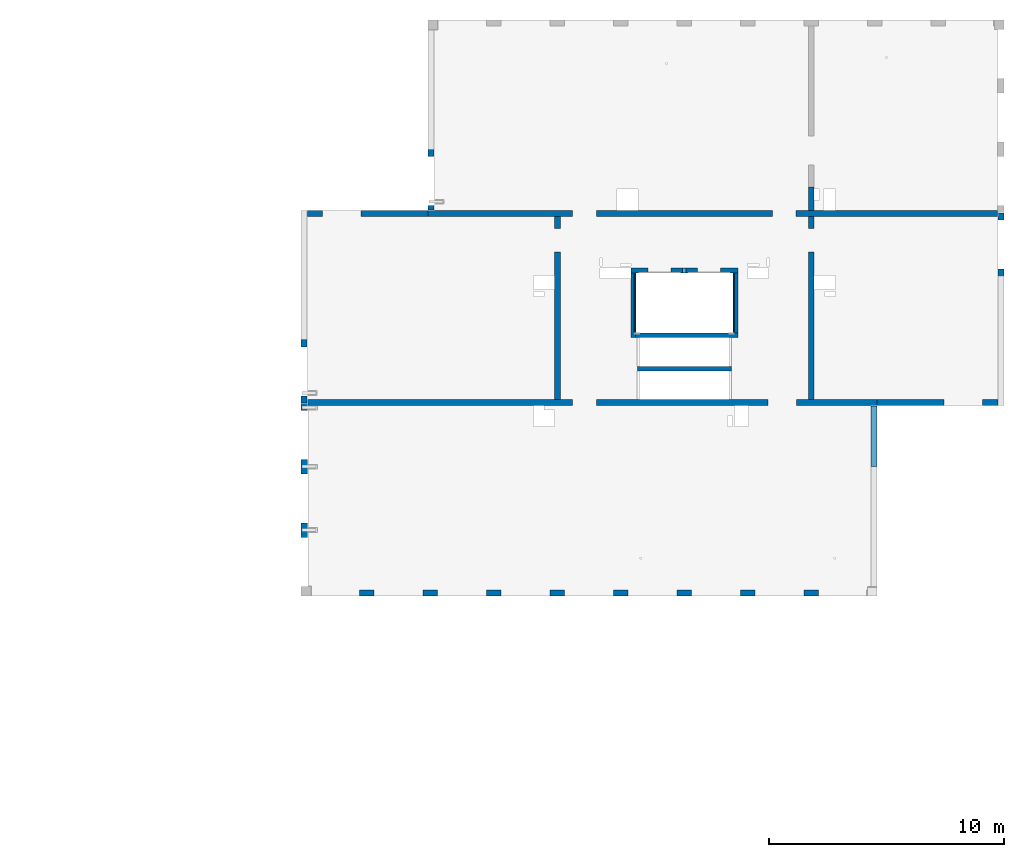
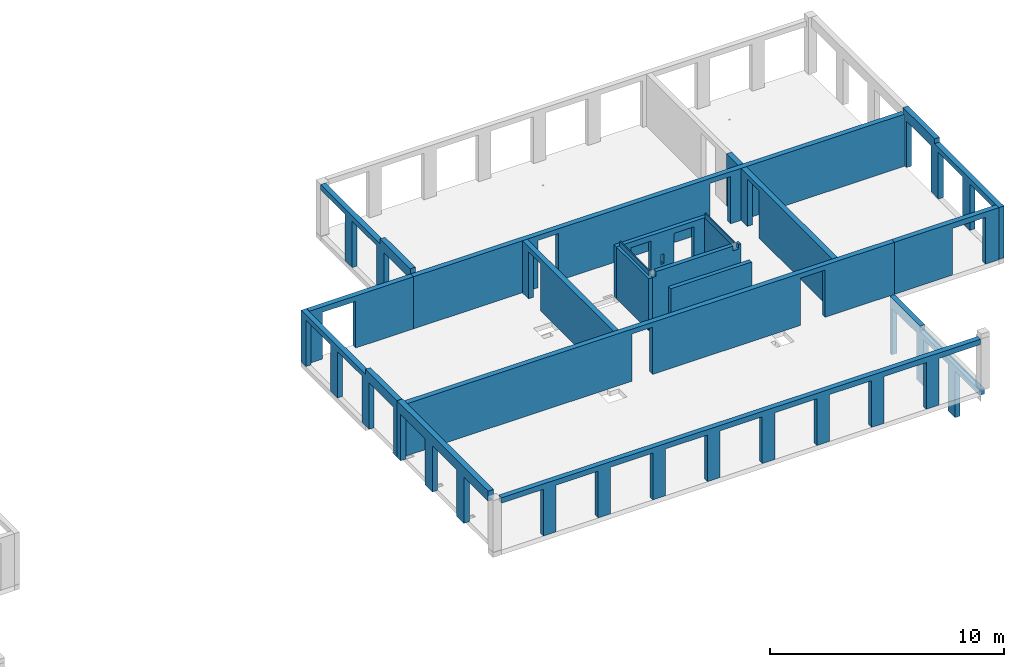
# One storey, part 6 of 12: 20 walls, 42 openings.
"""IFC2X3 building model written with IfcOpenShell, lengths in millimetres."""

import ifcopenshell
import ifcopenshell.guid

model = None  # the IFC model being written
_history = None  # IfcOwnerHistory: only IFC2X3 demands one
_inside = {}  # id of a spatial element -> (the spatial element, [elements in it])
_under = {}  # id of a project, library or spatial element -> (it, [spatial elements below it])
_declared = {}  # id of a project -> (the project, [libraries it declares])
_typed = {}  # id of a type object -> (the type object, [elements of that type])
_made_of = {}  # id of a material, layer set ... -> (it, [elements and type objects made of it])


def new_model(schema):
    """Start an empty IFC model of exactly this schema.

    Asked for "IFC4X3", IfcOpenShell would pick the latest addendum, in which some entities
    have other attributes; the version numbers below select the first issue.
    IFC2X3 requires an IfcOwnerHistory on every rooted entity: one is made here for all.
    """
    global model, _history
    if schema == "IFC4X3":
        model = ifcopenshell.file(schema_version=(4, 3, 0, 0))
    else:
        model = ifcopenshell.file(schema=schema)
    _inside.clear()
    _under.clear()
    _declared.clear()
    _typed.clear()
    _made_of.clear()
    _history = None
    if model.schema == "IFC2X3":
        org = make("IfcOrganization", Name="unknown")
        user = make(
            "IfcPersonAndOrganization",
            ThePerson=make("IfcPerson", FamilyName="unknown"),
            TheOrganization=org,
        )
        app = make(
            "IfcApplication",
            ApplicationDeveloper=org,
            Version="unknown",
            ApplicationFullName="unknown",
            ApplicationIdentifier="unknown",
        )
        _history = make(
            "IfcOwnerHistory",
            OwningUser=user,
            OwningApplication=app,
            ChangeAction="ADDED",
            CreationDate=0,
        )
    return model


def make(cls, **values):
    """One entity of the class cls with the attributes given. An attribute that is None is left unset."""
    return model.create_entity(
        cls, **{name: value for name, value in values.items() if value is not None}
    )


def entity(cls, *values):
    """Any entity or typed value of the class cls, its attributes in the order of the schema. None: left unset."""
    e = model.create_entity(cls)
    for i, value in enumerate(values):
        if value is not None:
            e[i] = value
    return e


def rooted(cls, **values):
    """An entity with a GlobalId (a new one), such as an element, a storey or a relation."""
    return make(cls, GlobalId=ifcopenshell.guid.new(), OwnerHistory=_history, **values)


def si_unit(unit_type, name, prefix=None):
    """IfcSIUnit, for example si_unit("LENGTHUNIT", "METRE", prefix="MILLI")."""
    return make("IfcSIUnit", UnitType=unit_type, Prefix=prefix, Name=name)


def converted_unit(unit_type, name, factor, base, dimensions=None, offset=None):
    """IfcConversionBasedUnit, such as the inch: factor (a typed value) times the base unit."""
    return make(
        "IfcConversionBasedUnit"
        if offset is None
        else "IfcConversionBasedUnitWithOffset",
        ConversionOffset=offset,
        Dimensions=None
        if dimensions is None
        else entity("IfcDimensionalExponents", *dimensions),
        UnitType=unit_type,
        Name=name,
        ConversionFactor=make(
            "IfcMeasureWithUnit", ValueComponent=factor, UnitComponent=base
        ),
    )


def derived_unit(unit_type, elements):
    """IfcDerivedUnit: a product of units, each with its exponent."""
    return make(
        "IfcDerivedUnit",
        Elements=[
            make("IfcDerivedUnitElement", Unit=unit, Exponent=power)
            for unit, power in elements
        ],
        UnitType=unit_type,
    )


def assignment(units):
    """IfcUnitAssignment: the units of a project."""
    return None if units is None else make("IfcUnitAssignment", Units=units)


def point(xyz):
    """IfcCartesianPoint."""
    return None if xyz is None else make("IfcCartesianPoint", Coordinates=xyz)


def direction(xyz):
    """IfcDirection."""
    return None if xyz is None else make("IfcDirection", DirectionRatios=xyz)


def frame(location, z_axis=None, x_axis=None):
    """IfcAxis2Placement3D, a coordinate frame: its origin and axes. An axis left out is left unset."""
    return make(
        "IfcAxis2Placement3D",
        Location=point(location),
        Axis=direction(z_axis),
        RefDirection=direction(x_axis),
    )


def frame_2d(location, x_axis=None):
    """IfcAxis2Placement2D, a coordinate frame in the plane: its origin and x axis."""
    return make(
        "IfcAxis2Placement2D", Location=point(location), RefDirection=direction(x_axis)
    )


def origin():
    """The frame at (0, 0, 0) with its axes left unset."""
    return frame((0.0, 0.0, 0.0))


def origin_2d_with_axis():
    """The frame at (0, 0) in the plane with the x axis (1, 0) written out."""
    return frame_2d((0.0, 0.0), x_axis=(1.0, 0.0))


def place(relative_to, where):
    """IfcLocalPlacement: puts the frame where relative to a parent placement (None: the world)."""
    return make(
        "IfcLocalPlacement", PlacementRelTo=relative_to, RelativePlacement=where
    )


def context(
    kind, dimensions, precision=None, world=None, true_north=None, identifier=None
):
    """IfcGeometricRepresentationContext, for example the 3D "Model" context."""
    return make(
        "IfcGeometricRepresentationContext",
        ContextIdentifier=identifier,
        ContextType=kind,
        CoordinateSpaceDimension=dimensions,
        Precision=precision,
        WorldCoordinateSystem=world,
        TrueNorth=true_north,
    )


def subcontext(parent, identifier, kind, view, scale=None):
    """IfcGeometricRepresentationSubContext, for example "Body" below "Model"."""
    return make(
        "IfcGeometricRepresentationSubContext",
        ContextIdentifier=identifier,
        ContextType=kind,
        ParentContext=parent,
        TargetScale=scale,
        TargetView=view,
    )


def project(units=None, contexts=None):
    """IfcProject with its units and contexts."""
    return rooted(
        "IfcProject",
        Name="project",
        RepresentationContexts=contexts,
        UnitsInContext=assignment(units),
    )


def spatial(cls, under=None, at=None, **own):
    """A site, building, storey or space (cls), placed at a placement, below another one or the project."""
    s = rooted(cls, ObjectPlacement=at, **own)
    if under is not None:
        _under.setdefault(under.id(), (under, []))[1].append(s)
    return s


def profile(cls, at=None, kind="AREA", **sizes):
    """A parametric profile (cls). Its sizes go by their IFC names, for example OverallWidth=200.0."""
    return make(cls, ProfileType=kind, Position=at, **sizes)


def rectangle(**sizes):
    """IfcRectangleProfileDef."""
    return profile("IfcRectangleProfileDef", **sizes)


def extrude(swept, where, along, depth):
    """IfcExtrudedAreaSolid: the profile swept, set in the frame where, extruded along a direction by depth."""
    return make(
        "IfcExtrudedAreaSolid",
        SweptArea=swept,
        Position=where,
        ExtrudedDirection=direction(along),
        Depth=depth,
    )


def shape(context_of_items, identifier, shape_type, items):
    """IfcShapeRepresentation: the items that make up one representation, for example the "Body"."""
    return make(
        "IfcShapeRepresentation",
        ContextOfItems=context_of_items,
        RepresentationIdentifier=identifier,
        RepresentationType=shape_type,
        Items=items,
    )


def material(Name=None, Category=None):
    """IfcMaterial."""
    return make("IfcMaterial", Name=Name, Category=Category)


def layer(
    of_material, thickness, ventilated=None, Name=None, Category=None, Priority=None
):
    """IfcMaterialLayer: one layer of a wall or slab, of a material (None: an air gap)."""
    return make(
        "IfcMaterialLayer",
        Material=of_material,
        LayerThickness=thickness,
        IsVentilated=ventilated,
        Name=Name,
        Category=Category,
        Priority=Priority,
    )


def layer_set(layers, Name=None):
    """IfcMaterialLayerSet."""
    return make("IfcMaterialLayerSet", MaterialLayers=layers, LayerSetName=Name)


def layer_usage(for_layer_set, set_direction, sense, offset, extent=None):
    """IfcMaterialLayerSetUsage: how a layer set lies in its element."""
    return make(
        "IfcMaterialLayerSetUsage",
        ForLayerSet=for_layer_set,
        LayerSetDirection=set_direction,
        DirectionSense=sense,
        OffsetFromReferenceLine=offset,
        ReferenceExtent=extent,
    )


def made_of(thing, what):
    """Note that an element or type object is made of a material, layer set ...; save() writes the relation."""
    if what is not None:
        _made_of.setdefault(what.id(), (what, []))[1].append(thing)
    return thing


def type_object(cls, material=None, **own):
    """A type object (cls), such as IfcWallType, which elements share."""
    return made_of(rooted(cls, **own), material)


def element(
    cls,
    number,
    at=None,
    inside=None,
    cuts=None,
    type_object=None,
    material=None,
    context=None,
    identifier="Body",
    shape_type=None,
    held_by="IfcProductDefinitionShape",
    body=None,
    shapes=None,
    **own,
):
    """One element of the class cls, such as IfcWall. Its Tag is "e" and its number.

    at: its placement. inside: the storey or other place that contains it. cuts: it is an
    opening in that element (IfcRelVoidsElement). A single representation is given by context,
    identifier, shape_type and body (its items); several are given by shapes. held_by: the class
    of the entity that holds the representations. save() writes the other relations.
    """
    e = rooted(cls, Tag="e%d" % number, ObjectPlacement=at, **own)
    if body is not None:
        shapes = [shape(context, identifier, shape_type, body)]
    if shapes is not None:
        e.Representation = make(held_by, Representations=shapes)
    if inside is not None:
        _inside.setdefault(inside.id(), (inside, []))[1].append(e)
    if cuts is not None:
        rooted(
            "IfcRelVoidsElement", RelatingBuildingElement=cuts, RelatedOpeningElement=e
        )
    if type_object is not None:
        _typed.setdefault(type_object.id(), (type_object, []))[1].append(e)
    return made_of(e, material)


def aggregate(whole, parts):
    """IfcRelAggregates: a whole, such as a stair, and the parts it consists of."""
    return rooted("IfcRelAggregates", RelatingObject=whole, RelatedObjects=parts)


def save(model, path):
    """Write the relations noted so far, then the file.

    IfcRelAggregates (storeys below a building ...), IfcRelContainedInSpatialStructure (elements
    in a storey), IfcRelDefinesByType, IfcRelAssociatesMaterial and IfcRelDeclares: one each for
    every whole, place, type object, material and project.
    """
    for whole, parts in _under.values():
        aggregate(whole, parts)
    for where, things in _inside.values():
        rooted(
            "IfcRelContainedInSpatialStructure",
            RelatedElements=things,
            RelatingStructure=where,
        )
    for kind, things in _typed.values():
        rooted("IfcRelDefinesByType", RelatedObjects=things, RelatingType=kind)
    for what, things in _made_of.values():
        rooted("IfcRelAssociatesMaterial", RelatedObjects=things, RelatingMaterial=what)
    for by, libraries in _declared.values():
        rooted("IfcRelDeclares", RelatingContext=by, RelatedDefinitions=libraries)
    model.write(path)


model = new_model("IFC2X3")

# Units and contexts
model_context = context("Model", 3, precision=0.01, world=origin(), true_north=direction((6.12303176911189e-17, 1.0)))
body_context = subcontext(model_context, "Body", "Model", "MODEL_VIEW")
ifc_project = project(units=[si_unit("LENGTHUNIT", "METRE", prefix="MILLI"), si_unit("AREAUNIT", "SQUARE_METRE"), si_unit("VOLUMEUNIT", "CUBIC_METRE"), converted_unit("PLANEANGLEUNIT", "DEGREE", entity("IfcRatioMeasure", 0.0174532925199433), si_unit("PLANEANGLEUNIT", "RADIAN"), dimensions=[0, 0, 0, 0, 0, 0, 0]), si_unit("MASSUNIT", "GRAM", prefix="KILO"), derived_unit("MASSDENSITYUNIT", [(si_unit("MASSUNIT", "GRAM", prefix="KILO"), 1), (si_unit("LENGTHUNIT", "METRE"), -3)]), si_unit("TIMEUNIT", "SECOND"), si_unit("FREQUENCYUNIT", "HERTZ"), si_unit("THERMODYNAMICTEMPERATUREUNIT", "DEGREE_CELSIUS"), derived_unit("THERMALTRANSMITTANCEUNIT", [(si_unit("MASSUNIT", "GRAM", prefix="KILO"), 1), (si_unit("THERMODYNAMICTEMPERATUREUNIT", "KELVIN"), -1), (si_unit("TIMEUNIT", "SECOND"), -3)]), derived_unit("VOLUMETRICFLOWRATEUNIT", [(si_unit("LENGTHUNIT", "METRE"), 3), (si_unit("TIMEUNIT", "SECOND"), -1)]), si_unit("ELECTRICCURRENTUNIT", "AMPERE"), si_unit("ELECTRICVOLTAGEUNIT", "VOLT"), si_unit("POWERUNIT", "WATT"), si_unit("FORCEUNIT", "NEWTON", prefix="KILO"), si_unit("ILLUMINANCEUNIT", "LUX"), si_unit("LUMINOUSFLUXUNIT", "LUMEN"), si_unit("LUMINOUSINTENSITYUNIT", "CANDELA"), derived_unit("USERDEFINED", [(si_unit("MASSUNIT", "GRAM", prefix="KILO"), -1), (si_unit("LENGTHUNIT", "METRE"), -2), (si_unit("TIMEUNIT", "SECOND"), 3), (si_unit("LUMINOUSFLUXUNIT", "LUMEN"), 1)]), derived_unit("LINEARVELOCITYUNIT", [(si_unit("LENGTHUNIT", "METRE"), 1), (si_unit("TIMEUNIT", "SECOND"), -1)]), si_unit("PRESSUREUNIT", "PASCAL"), derived_unit("USERDEFINED", [(si_unit("LENGTHUNIT", "METRE"), -2), (si_unit("MASSUNIT", "GRAM", prefix="KILO"), 1), (si_unit("TIMEUNIT", "SECOND"), -2)])], contexts=[model_context])

# Site, building, storey
site_placement = place(None, origin())
site = spatial("IfcSite", under=ifc_project, at=site_placement, Name="Default", CompositionType="ELEMENT")
building_placement = place(site_placement, origin())
building = spatial("IfcBuilding", under=site, at=building_placement, Name="niet gebruiken", CompositionType="ELEMENT")
storey_placement = place(building_placement, frame((0.0, 0.0, 21510.0)))
storey = spatial("IfcBuildingStorey", under=building, at=storey_placement, Name="07 zevende verdieping", CompositionType="ELEMENT", Elevation=21510.0)

# Wall, openings
ifc_material_1 = material(Name="NLRS_f2_beton ihwg")
ifc_layer_1 = layer(ifc_material_1, 250.0)
ifc_layer_set_1 = layer_set([ifc_layer_1], Name="Basic Wall:NLRS_22.21_WA_beton ihwg d=250_gen")
ifc_layer_usage_1 = layer_usage(ifc_layer_set_1, "AXIS2", "NEGATIVE", 125.0)
wall_type_1 = type_object("IfcWallType", Name="Basic Wall:NLRS_22.21_WA_beton ihwg d=250_gen", PredefinedType="STANDARD", material=ifc_layer_set_1)
wall_1_placement = place(storey_placement, frame((75770.0, 36981.0, -90.0)))
wall_1 = element("IfcWallStandardCase", 1, at=wall_1_placement, inside=storey, type_object=wall_type_1, material=ifc_layer_usage_1, Name="Basic Wall:NLRS_22.21_WA_beton ihwg d=250_gen", ObjectType="Basic Wall:NLRS_22.21_WA_beton ihwg d=250_gen", context=body_context, shape_type="SweptSolid", body=[
    extrude(rectangle(XDim=24230.0, YDim=250.000000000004, at=frame_2d((12115.0, 0.0), x_axis=(-1.0, 0.0))), origin(), (0.0, 0.0, 1.0), 2719.99999999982),
])
opening_1_placement = place(wall_1_placement, origin())
element("IfcOpeningElement", 2, at=opening_1_placement, cuts=wall_1, Name="Basic Wall:NLRS_22.21_WA_beton ihwg d=250_gen", ObjectType="Opening", context=body_context, shape_type="SweptSolid", body=[
    extrude(rectangle(XDim=2470.0, YDim=1225.0, at=frame_2d((-8.69704308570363e-12, 0.0), x_axis=(0.0, 1.0))), frame((20192.5000000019, -1399.0, 1235.0), z_axis=(0.0, 1.0, 0.0), x_axis=(-1.0, 0.0, 0.0)), (0.0, 0.0, 1.0), 3048.0),
])
opening_2_placement = place(wall_1_placement, origin())
element("IfcOpeningElement", 3, at=opening_2_placement, cuts=wall_1, Name="Basic Wall:NLRS_22.21_WA_beton ihwg d=250_gen", ObjectType="Opening", context=body_context, shape_type="SweptSolid", body=[
    extrude(rectangle(XDim=2470.0, YDim=1006.0, at=frame_2d((-8.66862137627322e-12, 0.0), x_axis=(0.0, 1.0))), frame((11782.0, -1399.0, 1235.0), z_axis=(0.0, 1.0, 0.0), x_axis=(-1.0, 0.0, 0.0)), (0.0, 0.0, 1.0), 3048.0),
])
opening_3_placement = place(wall_1_placement, origin())
element("IfcOpeningElement", 4, at=opening_3_placement, cuts=wall_1, Name="Basic Wall:NLRS_22.21_WA_beton ihwg d=250_gen", ObjectType="Recess", context=body_context, shape_type="SweptSolid", body=[
    extrude(rectangle(XDim=55000.0, YDim=19.9999999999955, at=frame_2d((0.0, 4.33164615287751e-12), x_axis=(1.0, 0.0))), frame((10.0, -140.0, 18590.0), z_axis=(0.0, 1.0, 0.0), x_axis=(0.0, 0.0, -1.0)), (0.0, 0.0, 1.0), 124.999999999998),
])

# Wall, opening
ifc_layer_usage_2 = layer_usage(ifc_layer_set_1, "AXIS2", "NEGATIVE", 125.0)
wall_2_placement = place(storey_placement, frame((75770.0, 45031.0, -90.0)))
wall_2 = element("IfcWallStandardCase", 5, at=wall_2_placement, inside=storey, type_object=wall_type_1, material=ifc_layer_usage_2, Name="Basic Wall:NLRS_22.21_WA_beton ihwg d=250_gen", ObjectType="Basic Wall:NLRS_22.21_WA_beton ihwg d=250_gen", context=body_context, shape_type="SweptSolid", body=[
    extrude(rectangle(XDim=5130.0, YDim=249.999999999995, at=frame_2d((2565.0, 0.0), x_axis=(-1.0, 0.0))), origin(), (0.0, 0.0, 1.0), 2719.99999999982),
])
opening_4_placement = place(wall_2_placement, origin())
element("IfcOpeningElement", 6, at=opening_4_placement, cuts=wall_2, Name="Basic Wall:NLRS_22.21_WA_beton ihwg d=250_gen", ObjectType="Opening", context=body_context, shape_type="SweptSolid", body=[
    extrude(rectangle(XDim=2440.0, YDim=1640.0, at=frame_2d((0.0, 4.37694325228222e-12), x_axis=(1.0, 0.0))), frame((1460.0, -1649.0, 1220.0), z_axis=(0.0, 1.0, 0.0), x_axis=(0.0, 0.0, 1.0)), (0.0, 0.0, 1.0), 3048.0),
])

ifc_layer_usage_3 = layer_usage(ifc_layer_set_1, "AXIS2", "NEGATIVE", 125.0)
wall_3_placement = place(storey_placement, frame((86400.0, 44906.0, -90.0), z_axis=(0.0, 0.0, 1.0), x_axis=(0.0, -1.0, 0.0)))
wall_3 = element("IfcWallStandardCase", 7, at=wall_3_placement, inside=storey, type_object=wall_type_1, material=ifc_layer_usage_3, Name="Basic Wall:NLRS_22.21_WA_beton ihwg d=250_gen", ObjectType="Basic Wall:NLRS_22.21_WA_beton ihwg d=250_gen", context=body_context, shape_type="SweptSolid", body=[
    extrude(rectangle(XDim=7799.99999999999, YDim=250.000000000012, at=frame_2d((3900.0, 0.0), x_axis=(-1.0, 0.0))), origin(), (0.0, 0.0, 1.0), 2719.99999999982),
])
opening_5_placement = place(wall_3_placement, origin())
element("IfcOpeningElement", 8, at=opening_5_placement, cuts=wall_3, Name="Basic Wall:NLRS_22.21_WA_beton ihwg d=250_gen", ObjectType="Opening", context=body_context, shape_type="SweptSolid", body=[
    extrude(rectangle(XDim=2470.0, YDim=1006.0, at=origin_2d_with_axis()), frame((1027.0, -1649.0, 1235.0), z_axis=(0.0, 1.0, 0.0), x_axis=(0.0, 0.0, 1.0)), (0.0, 0.0, 1.0), 3048.0),
])

ifc_layer_usage_4 = layer_usage(ifc_layer_set_1, "AXIS2", "NEGATIVE", 125.0)
wall_4_placement = place(storey_placement, frame((97200.0, 44906.0, -90.0), z_axis=(0.0, 0.0, 1.0), x_axis=(0.0, -1.0, 0.0)))
wall_4 = element("IfcWallStandardCase", 9, at=wall_4_placement, inside=storey, type_object=wall_type_1, material=ifc_layer_usage_4, Name="Basic Wall:NLRS_22.21_WA_beton ihwg d=250_gen", ObjectType="Basic Wall:NLRS_22.21_WA_beton ihwg d=250_gen", context=body_context, shape_type="SweptSolid", body=[
    extrude(rectangle(XDim=7799.99999999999, YDim=250.000000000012, at=frame_2d((3900.0, 0.0), x_axis=(-1.0, 0.0))), origin(), (0.0, 0.0, 1.0), 2719.99999999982),
])
opening_6_placement = place(wall_4_placement, origin())
element("IfcOpeningElement", 10, at=opening_6_placement, cuts=wall_4, Name="Basic Wall:NLRS_22.21_WA_beton ihwg d=250_gen", ObjectType="Opening", context=body_context, shape_type="SweptSolid", body=[
    extrude(rectangle(XDim=2470.0, YDim=1006.0, at=origin_2d_with_axis()), frame((1027.0, -1649.0, 1235.0), z_axis=(0.0, 1.0, 0.0), x_axis=(0.0, 0.0, 1.0)), (0.0, 0.0, 1.0), 3048.0),
])

# Wall, openings
ifc_layer_usage_5 = layer_usage(ifc_layer_set_1, "AXIS2", "NEGATIVE", 125.0)
wall_5_placement = place(storey_placement, frame((80900.0, 45031.0, -90.0)))
wall_5 = element("IfcWallStandardCase", 11, at=wall_5_placement, inside=storey, type_object=wall_type_1, material=ifc_layer_usage_5, Name="Basic Wall:NLRS_22.21_WA_beton ihwg d=250_gen", ObjectType="Basic Wall:NLRS_22.21_WA_beton ihwg d=250_gen", context=body_context, shape_type="SweptSolid", body=[
    extrude(rectangle(XDim=24230.0000000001, YDim=249.999999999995, at=frame_2d((12115.0000000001, 0.0), x_axis=(-1.0, 0.0))), origin(), (0.0, 0.0, 1.0), 2719.99999999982),
])
opening_7_placement = place(wall_5_placement, origin())
element("IfcOpeningElement", 12, at=opening_7_placement, cuts=wall_5, Name="Basic Wall:NLRS_22.21_WA_beton ihwg d=250_gen", ObjectType="Opening", context=body_context, shape_type="SweptSolid", body=[
    extrude(rectangle(XDim=2470.0, YDim=1006.0, at=frame_2d((0.0, 8.66862137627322e-12), x_axis=(1.0, 0.0))), frame((15148.0, -1649.0, 1235.0), z_axis=(0.0, 1.0, 0.0), x_axis=(0.0, 0.0, 1.0)), (0.0, 0.0, 1.0), 3048.0),
])
opening_8_placement = place(wall_5_placement, origin())
element("IfcOpeningElement", 13, at=opening_8_placement, cuts=wall_5, Name="Basic Wall:NLRS_22.21_WA_beton ihwg d=250_gen", ObjectType="Opening", context=body_context, shape_type="SweptSolid", body=[
    extrude(rectangle(XDim=2470.0, YDim=1006.0, at=frame_2d((0.0, 8.66862137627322e-12), x_axis=(1.0, 0.0))), frame((6652.0, -1649.0, 1235.0), z_axis=(0.0, 1.0, 0.0), x_axis=(0.0, 0.0, 1.0)), (0.0, 0.0, 1.0), 3048.0),
])

# Wall, opening
ifc_layer_usage_6 = layer_usage(ifc_layer_set_1, "AXIS2", "NEGATIVE", 125.0)
wall_6_placement = place(storey_placement, frame((100000.0, 36981.0, -90.0)))
wall_6 = element("IfcWallStandardCase", 14, at=wall_6_placement, inside=storey, type_object=wall_type_1, material=ifc_layer_usage_6, Name="Basic Wall:NLRS_22.21_WA_beton ihwg d=250_gen", ObjectType="Basic Wall:NLRS_22.21_WA_beton ihwg d=250_gen", context=body_context, shape_type="SweptSolid", body=[
    extrude(rectangle(XDim=5149.99999999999, YDim=250.000000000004, at=frame_2d((2575.0, 0.0), x_axis=(-1.0, 0.0))), origin(), (0.0, 0.0, 1.0), 2719.99999999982),
])
opening_9_placement = place(wall_6_placement, origin())
element("IfcOpeningElement", 15, at=opening_9_placement, cuts=wall_6, Name="Basic Wall:NLRS_22.21_WA_beton ihwg d=250_gen", ObjectType="Opening", context=body_context, shape_type="SweptSolid", body=[
    extrude(rectangle(XDim=2440.0, YDim=1639.99999999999, at=frame_2d((-8.69704308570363e-12, 0.0), x_axis=(0.0, 1.0))), frame((3670.0, -1399.0, 1220.0), z_axis=(0.0, 1.0, 0.0), x_axis=(-1.0, 0.0, 0.0)), (0.0, 0.0, 1.0), 3048.0),
])

# Wall
ifc_layer_usage_7 = layer_usage(ifc_layer_set_1, "AXIS2", "NEGATIVE", 125.0)
wall_7_placement = place(storey_placement, frame((97200.0, 46156.0, -90.0), z_axis=(0.0, 0.0, 1.0), x_axis=(0.0, -1.0, 0.0)))
element("IfcWallStandardCase", 16, at=wall_7_placement, inside=storey, type_object=wall_type_1, material=ifc_layer_usage_7, Name="Basic Wall:NLRS_22.21_WA_beton ihwg d=250_gen", ObjectType="Basic Wall:NLRS_22.21_WA_beton ihwg d=250_gen", context=body_context, shape_type="SweptSolid", body=[
    extrude(rectangle(XDim=999.999999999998, YDim=250.000000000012, at=frame_2d((499.999999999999, 1.10134124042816e-12), x_axis=(-1.0, 0.0))), origin(), (0.0, 0.0, 1.0), 2719.99999999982),
])

# Wall, openings
ifc_material_2 = material(Name="NLRS_f2_beton prefab")
ifc_layer_2 = layer(ifc_material_2, 250.0)
ifc_layer_set_2 = layer_set([ifc_layer_2], Name="Basic Wall:NLRS_21.21_WA_beton prefab d=250_gen")
ifc_layer_usage_8 = layer_usage(ifc_layer_set_2, "AXIS2", "NEGATIVE", 125.0)
wall_type_2 = type_object("IfcWallType", Name="Basic Wall:NLRS_21.21_WA_beton prefab d=250_gen", PredefinedType="STANDARD", material=ifc_layer_set_2)
wall_8_placement = place(storey_placement, frame((99875.0, 29166.0, -3040.0), z_axis=(0.0, 0.0, 1.0), x_axis=(0.0, 1.0, 0.0)))
wall_8 = element("IfcWallStandardCase", 17, at=wall_8_placement, inside=storey, type_object=wall_type_2, material=ifc_layer_usage_8, Name="Basic Wall:NLRS_21.21_WA_beton prefab d=250_gen", ObjectType="Basic Wall:NLRS_21.21_WA_beton prefab d=250_gen", context=body_context, shape_type="SweptSolid", body=[
    extrude(rectangle(XDim=7669.99999999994, YDim=250.000000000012, at=frame_2d((3834.99999999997, 0.0), x_axis=(-1.0, 0.0))), origin(), (0.0, 0.0, 1.0), 2949.99999999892),
])
opening_10_placement = place(wall_8_placement, origin())
element("IfcOpeningElement", 18, at=opening_10_placement, cuts=wall_8, Name="Basic Wall:NLRS_21.21_WA_beton prefab d=250_gen", ObjectType="Opening", context=body_context, shape_type="SweptSolid", body=[
    extrude(rectangle(XDim=2420.0, YDim=2080.0, at=frame_2d((-2.1600499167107e-12, 2.1600499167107e-12), x_axis=(0.0, 1.0))), frame((1040.0, -1399.0, 1210.0), z_axis=(0.0, 1.0, 0.0), x_axis=(-1.0, 0.0, 0.0)), (0.0, 0.0, 1.0), 3048.0),
])
opening_11_placement = place(wall_8_placement, origin())
element("IfcOpeningElement", 19, at=opening_11_placement, cuts=wall_8, Name="Basic Wall:NLRS_21.21_WA_beton prefab d=250_gen", ObjectType="Opening", context=body_context, shape_type="SweptSolid", body=[
    extrude(rectangle(XDim=2420.0, YDim=2080.0, at=frame_2d((2.1600499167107e-12, 2.1600499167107e-12), x_axis=(0.0, 1.0))), frame((3740.0, -1399.0, 1210.0), z_axis=(0.0, 1.0, 0.0), x_axis=(-1.0, 0.0, 0.0)), (0.0, 0.0, 1.0), 3048.0),
])
opening_12_placement = place(wall_8_placement, origin())
element("IfcOpeningElement", 20, at=opening_12_placement, cuts=wall_8, Name="Basic Wall:NLRS_21.21_WA_beton prefab d=250_gen", ObjectType="Opening", context=body_context, shape_type="SweptSolid", body=[
    extrude(rectangle(XDim=2420.0, YDim=2080.0, at=frame_2d((2.1600499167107e-12, 2.1600499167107e-12), x_axis=(0.0, 1.0))), frame((6440.0, -1399.0, 1210.0), z_axis=(0.0, 1.0, 0.0), x_axis=(-1.0, 0.0, 0.0)), (0.0, 0.0, 1.0), 3048.0),
])
opening_13_placement = place(wall_8_placement, origin())
element("IfcOpeningElement", 21, at=opening_13_placement, cuts=wall_8, Name="Basic Wall:NLRS_21.21_WA_beton prefab d=250_gen", ObjectType="Opening", context=body_context, shape_type="SweptSolid", body=[
    extrude(rectangle(XDim=249.999999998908, YDim=5090.00000000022, at=frame_2d((-4.32009983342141e-12, -2.16715534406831e-12), x_axis=(0.0, 1.0))), frame((2545.0, 125.0, 2825.0), z_axis=(0.0, -1.0, 0.0), x_axis=(-1.0, 0.0, 0.0)), (0.0, 0.0, 1.0), 250.0),
])

ifc_layer_usage_9 = layer_usage(ifc_layer_set_2, "AXIS2", "NEGATIVE", 125.0)
wall_9_placement = place(storey_placement, frame((75625.0, 45156.0, -70.0), z_axis=(0.0, 0.0, 1.0), x_axis=(0.0, -1.0, 0.0)))
wall_9 = element("IfcWallStandardCase", 22, at=wall_9_placement, inside=storey, type_object=wall_type_2, material=ifc_layer_usage_9, Name="Basic Wall:NLRS_21.21_WA_beton prefab d=250_gen", ObjectType="Basic Wall:NLRS_21.21_WA_beton prefab d=250_gen", context=body_context, shape_type="SweptSolid", body=[
    extrude(rectangle(XDim=8189.99999999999, YDim=249.999999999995, at=frame_2d((4095.0, 0.0), x_axis=(-1.0, 0.0))), origin(), (0.0, 0.0, 1.0), 2949.99999999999),
])
opening_14_placement = place(wall_9_placement, origin())
element("IfcOpeningElement", 23, at=opening_14_placement, cuts=wall_9, Name="Basic Wall:NLRS_21.21_WA_beton prefab d=250_gen", ObjectType="Opening", context=body_context, shape_type="SweptSolid", body=[
    extrude(rectangle(XDim=2420.0, YDim=2080.0, at=frame_2d((0.0, -2.1600499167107e-12), x_axis=(0.0, 1.0))), frame((1450.0, -1399.0, 1210.0), z_axis=(0.0, 1.0, 0.0), x_axis=(-1.0, 0.0, 0.0)), (0.0, 0.0, 1.0), 3048.0),
])
opening_15_placement = place(wall_9_placement, origin())
element("IfcOpeningElement", 24, at=opening_15_placement, cuts=wall_9, Name="Basic Wall:NLRS_21.21_WA_beton prefab d=250_gen", ObjectType="Opening", context=body_context, shape_type="SweptSolid", body=[
    extrude(rectangle(XDim=2420.0, YDim=2080.0, at=frame_2d((0.0, 2.1600499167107e-12), x_axis=(0.0, 1.0))), frame((4150.0, -1399.0, 1210.0), z_axis=(0.0, 1.0, 0.0), x_axis=(-1.0, 0.0, 0.0)), (0.0, 0.0, 1.0), 3048.0),
])
opening_16_placement = place(wall_9_placement, origin())
element("IfcOpeningElement", 25, at=opening_16_placement, cuts=wall_9, Name="Basic Wall:NLRS_21.21_WA_beton prefab d=250_gen", ObjectType="Opening", context=body_context, shape_type="SweptSolid", body=[
    extrude(rectangle(XDim=2420.0, YDim=2080.0, at=frame_2d((0.0, -2.1600499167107e-12), x_axis=(0.0, 1.0))), frame((6850.0, -1399.0, 1210.0), z_axis=(0.0, 1.0, 0.0), x_axis=(-1.0, 0.0, 0.0)), (0.0, 0.0, 1.0), 3048.0),
])
opening_17_placement = place(wall_9_placement, origin())
element("IfcOpeningElement", 26, at=opening_17_placement, cuts=wall_9, Name="Basic Wall:NLRS_21.21_WA_beton prefab d=250_gen", ObjectType="Opening", context=body_context, shape_type="SweptSolid", body=[
    extrude(rectangle(XDim=250.000000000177, YDim=5499.99999999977, at=frame_2d((0.0, 0.0), x_axis=(0.0, 1.0))), frame((2750.0, 125.0, 2825.0), z_axis=(0.0, -1.0, 0.0), x_axis=(-1.0, 0.0, 0.0)), (0.0, 0.0, 1.0), 250.0),
])

ifc_layer_usage_10 = layer_usage(ifc_layer_set_2, "AXIS2", "NEGATIVE", 125.0)
wall_10_placement = place(storey_placement, frame((81025.0, 52846.0, -70.0), z_axis=(0.0, 0.0, 1.0), x_axis=(0.0, -1.0, 0.0)))
wall_10 = element("IfcWallStandardCase", 27, at=wall_10_placement, inside=storey, type_object=wall_type_2, material=ifc_layer_usage_10, Name="Basic Wall:NLRS_21.21_WA_beton prefab d=250_gen", ObjectType="Basic Wall:NLRS_21.21_WA_beton prefab d=250_gen", context=body_context, shape_type="SweptSolid", body=[
    extrude(rectangle(XDim=7670.00000000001, YDim=250.000000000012, at=frame_2d((3835.0, 0.0), x_axis=(-1.0, 0.0))), origin(), (0.0, 0.0, 1.0), 2949.99999999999),
])
opening_18_placement = place(wall_10_placement, origin())
element("IfcOpeningElement", 28, at=opening_18_placement, cuts=wall_10, Name="Basic Wall:NLRS_21.21_WA_beton prefab d=250_gen", ObjectType="Opening", context=body_context, shape_type="SweptSolid", body=[
    extrude(rectangle(XDim=2420.0, YDim=2080.0, at=frame_2d((0.0, -2.1600499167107e-12), x_axis=(0.0, 1.0))), frame((1040.0, -1399.0, 1210.0), z_axis=(0.0, 1.0, 0.0), x_axis=(-1.0, 0.0, 0.0)), (0.0, 0.0, 1.0), 3048.0),
])
opening_19_placement = place(wall_10_placement, origin())
element("IfcOpeningElement", 29, at=opening_19_placement, cuts=wall_10, Name="Basic Wall:NLRS_21.21_WA_beton prefab d=250_gen", ObjectType="Opening", context=body_context, shape_type="SweptSolid", body=[
    extrude(rectangle(XDim=2420.0, YDim=2080.0, at=frame_2d((0.0, 2.1600499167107e-12), x_axis=(0.0, 1.0))), frame((3740.0, -1399.0, 1210.0), z_axis=(0.0, 1.0, 0.0), x_axis=(-1.0, 0.0, 0.0)), (0.0, 0.0, 1.0), 3048.0),
])
opening_20_placement = place(wall_10_placement, origin())
element("IfcOpeningElement", 30, at=opening_20_placement, cuts=wall_10, Name="Basic Wall:NLRS_21.21_WA_beton prefab d=250_gen", ObjectType="Opening", context=body_context, shape_type="SweptSolid", body=[
    extrude(rectangle(XDim=2420.0, YDim=2080.0, at=frame_2d((0.0, -2.1600499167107e-12), x_axis=(0.0, 1.0))), frame((6440.0, -1399.0, 1210.0), z_axis=(0.0, 1.0, 0.0), x_axis=(-1.0, 0.0, 0.0)), (0.0, 0.0, 1.0), 3048.0),
])
opening_21_placement = place(wall_10_placement, origin())
element("IfcOpeningElement", 31, at=opening_21_placement, cuts=wall_10, Name="Basic Wall:NLRS_21.21_WA_beton prefab d=250_gen", ObjectType="Opening", context=body_context, shape_type="SweptSolid", body=[
    extrude(rectangle(XDim=250.000000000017, YDim=5089.99999999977, at=frame_2d((4.32009983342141e-12, -2.16715534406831e-12), x_axis=(0.0, 1.0))), frame((2545.0, 125.0, 2825.0), z_axis=(0.0, -1.0, 0.0), x_axis=(-1.0, 0.0, 0.0)), (0.0, 0.0, 1.0), 250.0),
])

ifc_layer_usage_11 = layer_usage(ifc_layer_set_2, "AXIS2", "NEGATIVE", 125.0)
wall_11_placement = place(storey_placement, frame((105275.0, 45046.0, -70.0), z_axis=(0.0, 0.0, 1.0), x_axis=(0.0, -1.0, 0.0)))
wall_11 = element("IfcWallStandardCase", 32, at=wall_11_placement, inside=storey, type_object=wall_type_2, material=ifc_layer_usage_11, Name="Basic Wall:NLRS_21.21_WA_beton prefab d=250_gen", ObjectType="Basic Wall:NLRS_21.21_WA_beton prefab d=250_gen", context=body_context, shape_type="SweptSolid", body=[
    extrude(rectangle(XDim=8189.99999999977, YDim=250.000000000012, at=frame_2d((4094.99999999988, 0.0), x_axis=(-1.0, 0.0))), origin(), (0.0, 0.0, 1.0), 2949.99999999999),
])
opening_22_placement = place(wall_11_placement, origin())
element("IfcOpeningElement", 33, at=opening_22_placement, cuts=wall_11, Name="Basic Wall:NLRS_21.21_WA_beton prefab d=250_gen", ObjectType="Opening", context=body_context, shape_type="SweptSolid", body=[
    extrude(rectangle(XDim=2420.0, YDim=2080.0, at=frame_2d((0.0, 2.1600499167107e-12), x_axis=(0.0, 1.0))), frame((1340.0, -1399.0, 1210.0), z_axis=(0.0, 1.0, 0.0), x_axis=(-1.0, 0.0, 0.0)), (0.0, 0.0, 1.0), 3048.0),
])
opening_23_placement = place(wall_11_placement, origin())
element("IfcOpeningElement", 34, at=opening_23_placement, cuts=wall_11, Name="Basic Wall:NLRS_21.21_WA_beton prefab d=250_gen", ObjectType="Opening", context=body_context, shape_type="SweptSolid", body=[
    extrude(rectangle(XDim=2420.0, YDim=2080.0, at=frame_2d((0.0, 2.1600499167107e-12), x_axis=(0.0, 1.0))), frame((4040.0, -1399.0, 1210.0), z_axis=(0.0, 1.0, 0.0), x_axis=(-1.0, 0.0, 0.0)), (0.0, 0.0, 1.0), 3048.0),
])
opening_24_placement = place(wall_11_placement, origin())
element("IfcOpeningElement", 35, at=opening_24_placement, cuts=wall_11, Name="Basic Wall:NLRS_21.21_WA_beton prefab d=250_gen", ObjectType="Opening", context=body_context, shape_type="SweptSolid", body=[
    extrude(rectangle(XDim=2420.0, YDim=2080.0, at=frame_2d((0.0, 2.1600499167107e-12), x_axis=(0.0, 1.0))), frame((6740.0, -1399.0, 1210.0), z_axis=(0.0, 1.0, 0.0), x_axis=(-1.0, 0.0, 0.0)), (0.0, 0.0, 1.0), 3048.0),
])
opening_25_placement = place(wall_11_placement, origin())
element("IfcOpeningElement", 36, at=opening_25_placement, cuts=wall_11, Name="Basic Wall:NLRS_21.21_WA_beton prefab d=250_gen", ObjectType="Opening", context=body_context, shape_type="SweptSolid", body=[
    extrude(rectangle(XDim=249.999999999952, YDim=5500.0000000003, at=frame_2d((0.0, 4.32009983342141e-12), x_axis=(1.0, 0.0))), frame((5440.0, 125.0, 2825.0), z_axis=(0.0, -1.0, 0.0), x_axis=(0.0, 0.0, 1.0)), (0.0, 0.0, 1.0), 250.0),
])

# Wall
ifc_layer_3 = layer(ifc_material_2, 200.0)
ifc_layer_set_3 = layer_set([ifc_layer_3], Name="Basic Wall:NLRS_21.21_WA_beton prefab d=200_gen")
ifc_layer_usage_12 = layer_usage(ifc_layer_set_3, "AXIS2", "NEGATIVE", 100.0)
wall_type_3 = type_object("IfcWallType", Name="Basic Wall:NLRS_21.21_WA_beton prefab d=200_gen", PredefinedType="STANDARD", material=ifc_layer_set_3)
wall_12_placement = place(storey_placement, frame((89800.0, 38426.0, -70.0)))
element("IfcWallStandardCase", 37, at=wall_12_placement, inside=storey, type_object=wall_type_3, material=ifc_layer_usage_12, Name="Basic Wall:NLRS_21.21_WA_beton prefab d=200_gen", ObjectType="Basic Wall:NLRS_21.21_WA_beton prefab d=200_gen", context=body_context, shape_type="SweptSolid", body=[
    extrude(rectangle(XDim=3999.99999999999, YDim=199.999999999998, at=frame_2d((2000.0, 0.0), x_axis=(-1.0, 0.0))), origin(), (0.0, 0.0, 1.0), 2950.00000000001),
])

# Wall, openings
ifc_layer_4 = layer(ifc_material_2, 200.0)
ifc_layer_set_4 = layer_set([ifc_layer_4], Name="Basic Wall:NLRS_22.21_WA_beton prefab d=200_gen")
ifc_layer_usage_13 = layer_usage(ifc_layer_set_4, "AXIS2", "NEGATIVE", 100.0)
wall_type_4 = type_object("IfcWallType", Name="Basic Wall:NLRS_22.21_WA_beton prefab d=200_gen", PredefinedType="STANDARD", material=ifc_layer_set_4)
wall_13_placement = place(storey_placement, frame((89525.0, 42596.0, -70.0)))
wall_13 = element("IfcWallStandardCase", 38, at=wall_13_placement, inside=storey, type_object=wall_type_4, material=ifc_layer_usage_13, Name="Basic Wall:NLRS_22.21_WA_beton prefab d=200_gen", ObjectType="Basic Wall:NLRS_22.21_WA_beton prefab d=200_gen", context=body_context, shape_type="SweptSolid", body=[
    extrude(rectangle(XDim=4550.00000000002, YDim=200.000000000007, at=frame_2d((2275.00000000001, 7.8159700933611e-13), x_axis=(-1.0, 0.0))), origin(), (0.0, 0.0, 1.0), 2700.00000000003),
])
opening_26_placement = place(wall_13_placement, origin())
element("IfcOpeningElement", 39, at=opening_26_placement, cuts=wall_13, Name="Basic Wall:NLRS_22.21_WA_beton prefab d=200_gen", ObjectType="Opening", context=body_context, shape_type="SweptSolid", body=[
    extrude(rectangle(XDim=2430.0, YDim=980.000000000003, at=frame_2d((0.0, -8.66862137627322e-12), x_axis=(1.0, 0.0))), frame((1219.99984910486, -1624.0, 1195.0), z_axis=(0.0, 1.0, 0.0), x_axis=(0.0, 0.0, 1.0)), (0.0, 0.0, 1.0), 3048.0),
])
opening_27_placement = place(wall_13_placement, origin())
element("IfcOpeningElement", 40, at=opening_27_placement, cuts=wall_13, Name="Basic Wall:NLRS_22.21_WA_beton prefab d=200_gen", ObjectType="Opening", context=body_context, shape_type="SweptSolid", body=[
    extrude(rectangle(XDim=2430.0, YDim=980.000000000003, at=frame_2d((0.0, 8.66862137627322e-12), x_axis=(1.0, 0.0))), frame((3329.99984910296, -1624.0, 1195.0), z_axis=(0.0, 1.0, 0.0), x_axis=(0.0, 0.0, 1.0)), (0.0, 0.0, 1.0), 3048.0),
])
opening_28_placement = place(wall_13_placement, origin())
element("IfcOpeningElement", 41, at=opening_28_placement, cuts=wall_13, Name="Basic Wall:NLRS_22.21_WA_beton prefab d=200_gen", ObjectType="Opening", context=body_context, shape_type="SweptSolid", body=[
    extrude(rectangle(XDim=505.000000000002, YDim=135.000000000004, at=frame_2d((2.1600499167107e-12, -8.66151594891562e-12), x_axis=(1.0, 0.0))), frame((2275.0, -1624.0, 1272.5), z_axis=(0.0, 1.0, 0.0), x_axis=(0.0, 0.0, 1.0)), (0.0, 0.0, 1.0), 3048.0),
])

# Wall
ifc_layer_usage_14 = layer_usage(ifc_layer_set_4, "AXIS2", "NEGATIVE", 100.0)
wall_14_placement = place(storey_placement, frame((89625.0, 42496.0, -70.0), z_axis=(0.0, 0.0, 1.0), x_axis=(0.0, -1.0, 0.0)))
element("IfcWallStandardCase", 42, at=wall_14_placement, inside=storey, type_object=wall_type_4, material=ifc_layer_usage_14, Name="Basic Wall:NLRS_22.21_WA_beton prefab d=200_gen", ObjectType="Basic Wall:NLRS_22.21_WA_beton prefab d=200_gen", context=body_context, shape_type="SweptSolid", body=[
    extrude(rectangle(XDim=2749.99999999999, YDim=199.999999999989, at=frame_2d((1375.0, 0.0), x_axis=(-1.0, 0.0))), origin(), (0.0, 0.0, 1.0), 2700.00000000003),
])

# Wall, openings
ifc_layer_usage_15 = layer_usage(ifc_layer_set_4, "AXIS2", "NEGATIVE", 100.0)
wall_15_placement = place(storey_placement, frame((94075.0, 39846.0, -70.0), z_axis=(0.0, 0.0, 1.0), x_axis=(-1.0, 0.0, 0.0)))
wall_15 = element("IfcWallStandardCase", 43, at=wall_15_placement, inside=storey, type_object=wall_type_4, material=ifc_layer_usage_15, Name="Basic Wall:NLRS_22.21_WA_beton prefab d=200_gen", ObjectType="Basic Wall:NLRS_22.21_WA_beton prefab d=200_gen", context=body_context, shape_type="SweptSolid", body=[
    extrude(rectangle(XDim=4350.00000000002, YDim=200.000000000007, at=frame_2d((2175.00000000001, 0.0), x_axis=(-1.0, 0.0))), origin(), (0.0, 0.0, 1.0), 2950.0),
])
opening_29_placement = place(wall_15_placement, origin())
element("IfcOpeningElement", 44, at=opening_29_placement, cuts=wall_15, Name="Basic Wall:NLRS_22.21_WA_beton prefab d=200_gen", ObjectType="Opening", context=body_context, shape_type="SweptSolid", body=[
    extrude(rectangle(XDim=249.999999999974, YDim=274.999967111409, at=frame_2d((2.16715534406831e-12, -8.65441052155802e-12), x_axis=(1.0, 0.0))), frame((4312.50001644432, 100.0, 2825.0), z_axis=(0.0, -1.0, 0.0), x_axis=(0.0, 0.0, 1.0)), (0.0, 0.0, 1.0), 200.0),
])
opening_30_placement = place(wall_15_placement, origin())
element("IfcOpeningElement", 45, at=opening_30_placement, cuts=wall_15, Name="Basic Wall:NLRS_22.21_WA_beton prefab d=200_gen", ObjectType="Opening", context=body_context, shape_type="SweptSolid", body=[
    extrude(rectangle(XDim=249.999999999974, YDim=275.000032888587, at=frame_2d((0.0, -2.16715534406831e-12), x_axis=(0.0, 1.0))), frame((237.500016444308, 100.0, 2825.0), z_axis=(0.0, -1.0, 0.0), x_axis=(-1.0, 0.0, 0.0)), (0.0, 0.0, 1.0), 200.0),
])

# Wall
ifc_layer_usage_16 = layer_usage(ifc_layer_set_4, "AXIS2", "NEGATIVE", 100.0)
wall_16_placement = place(storey_placement, frame((93975.0, 39946.0, -70.0), z_axis=(0.0, 0.0, 1.0), x_axis=(0.0, 1.0, 0.0)))
element("IfcWallStandardCase", 46, at=wall_16_placement, inside=storey, type_object=wall_type_4, material=ifc_layer_usage_16, Name="Basic Wall:NLRS_22.21_WA_beton prefab d=200_gen", ObjectType="Basic Wall:NLRS_22.21_WA_beton prefab d=200_gen", context=body_context, shape_type="SweptSolid", body=[
    extrude(rectangle(XDim=2549.99999999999, YDim=199.999999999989, at=frame_2d((1275.0, 0.0), x_axis=(-1.0, 0.0))), origin(), (0.0, 0.0, 1.0), 2700.00000000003),
])

# Wall, openings
ifc_layer_5 = layer(ifc_material_1, 250.0)
ifc_layer_set_5 = layer_set([ifc_layer_5], Name="Basic Wall:NLRS_21.21_WA_beton ihwg d=250_gen")
ifc_layer_usage_17 = layer_usage(ifc_layer_set_5, "AXIS2", "NEGATIVE", 125.0)
wall_type_5 = type_object("IfcWallType", Name="Basic Wall:NLRS_21.21_WA_beton ihwg d=250_gen", PredefinedType="STANDARD", material=ifc_layer_set_5)
wall_17_placement = place(storey_placement, frame((75930.0, 28881.0, -90.0)))
wall_17 = element("IfcWallStandardCase", 47, at=wall_17_placement, inside=storey, type_object=wall_type_5, material=ifc_layer_usage_17, Name="Basic Wall:NLRS_21.21_WA_beton ihwg d=250_gen", ObjectType="Basic Wall:NLRS_21.21_WA_beton ihwg d=250_gen", context=body_context, shape_type="SweptSolid", body=[
    extrude(rectangle(XDim=23640.0000000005, YDim=250.000000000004, at=frame_2d((11820.0000000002, -8.66862137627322e-13), x_axis=(-1.0, 0.0))), origin(), (0.0, 0.0, 1.0), 2720.00000000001),
])
opening_31_placement = place(wall_17_placement, origin())
element("IfcOpeningElement", 48, at=opening_31_placement, cuts=wall_17, Name="Basic Wall:NLRS_21.21_WA_beton ihwg d=250_gen", ObjectType="Opening", context=body_context, shape_type="SweptSolid", body=[
    extrude(rectangle(XDim=2440.0, YDim=2080.0, at=frame_2d((8.64019966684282e-12, 0.0), x_axis=(0.0, 1.0))), frame((22620.0, -1399.0, 1220.0), z_axis=(0.0, 1.0, 0.0), x_axis=(-1.0, 0.0, 0.0)), (0.0, 0.0, 1.0), 3048.0),
])
opening_32_placement = place(wall_17_placement, origin())
element("IfcOpeningElement", 49, at=opening_32_placement, cuts=wall_17, Name="Basic Wall:NLRS_21.21_WA_beton ihwg d=250_gen", ObjectType="Opening", context=body_context, shape_type="SweptSolid", body=[
    extrude(rectangle(XDim=2440.0, YDim=2080.0, at=frame_2d((8.64019966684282e-12, -2.1600499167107e-12), x_axis=(0.0, 1.0))), frame((19920.0, -1399.0, 1220.0), z_axis=(0.0, 1.0, 0.0), x_axis=(-1.0, 0.0, 0.0)), (0.0, 0.0, 1.0), 3048.0),
])
opening_33_placement = place(wall_17_placement, origin())
element("IfcOpeningElement", 50, at=opening_33_placement, cuts=wall_17, Name="Basic Wall:NLRS_21.21_WA_beton ihwg d=250_gen", ObjectType="Opening", context=body_context, shape_type="SweptSolid", body=[
    extrude(rectangle(XDim=2440.0, YDim=2080.0, at=frame_2d((8.64019966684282e-12, 0.0), x_axis=(0.0, 1.0))), frame((17220.0, -1399.0, 1220.0), z_axis=(0.0, 1.0, 0.0), x_axis=(-1.0, 0.0, 0.0)), (0.0, 0.0, 1.0), 3048.0),
])
opening_34_placement = place(wall_17_placement, origin())
element("IfcOpeningElement", 51, at=opening_34_placement, cuts=wall_17, Name="Basic Wall:NLRS_21.21_WA_beton ihwg d=250_gen", ObjectType="Opening", context=body_context, shape_type="SweptSolid", body=[
    extrude(rectangle(XDim=2440.0, YDim=2080.0, at=frame_2d((-8.64019966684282e-12, -2.1600499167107e-12), x_axis=(0.0, 1.0))), frame((14520.0, -1399.0, 1220.0), z_axis=(0.0, 1.0, 0.0), x_axis=(-1.0, 0.0, 0.0)), (0.0, 0.0, 1.0), 3048.0),
])
opening_35_placement = place(wall_17_placement, origin())
element("IfcOpeningElement", 52, at=opening_35_placement, cuts=wall_17, Name="Basic Wall:NLRS_21.21_WA_beton ihwg d=250_gen", ObjectType="Opening", context=body_context, shape_type="SweptSolid", body=[
    extrude(rectangle(XDim=2440.0, YDim=2080.0, at=frame_2d((8.64019966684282e-12, 0.0), x_axis=(0.0, 1.0))), frame((11820.0, -1399.0, 1220.0), z_axis=(0.0, 1.0, 0.0), x_axis=(-1.0, 0.0, 0.0)), (0.0, 0.0, 1.0), 3048.0),
])
opening_36_placement = place(wall_17_placement, origin())
element("IfcOpeningElement", 53, at=opening_36_placement, cuts=wall_17, Name="Basic Wall:NLRS_21.21_WA_beton ihwg d=250_gen", ObjectType="Opening", context=body_context, shape_type="SweptSolid", body=[
    extrude(rectangle(XDim=2440.0, YDim=2080.0, at=frame_2d((8.64019966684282e-12, -2.1600499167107e-12), x_axis=(0.0, 1.0))), frame((9120.0, -1399.0, 1220.0), z_axis=(0.0, 1.0, 0.0), x_axis=(-1.0, 0.0, 0.0)), (0.0, 0.0, 1.0), 3048.0),
])
opening_37_placement = place(wall_17_placement, origin())
element("IfcOpeningElement", 54, at=opening_37_placement, cuts=wall_17, Name="Basic Wall:NLRS_21.21_WA_beton ihwg d=250_gen", ObjectType="Opening", context=body_context, shape_type="SweptSolid", body=[
    extrude(rectangle(XDim=2440.0, YDim=2080.0, at=frame_2d((-8.64019966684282e-12, 0.0), x_axis=(0.0, 1.0))), frame((6420.0, -1399.0, 1220.0), z_axis=(0.0, 1.0, 0.0), x_axis=(-1.0, 0.0, 0.0)), (0.0, 0.0, 1.0), 3048.0),
])
opening_38_placement = place(wall_17_placement, origin())
element("IfcOpeningElement", 55, at=opening_38_placement, cuts=wall_17, Name="Basic Wall:NLRS_21.21_WA_beton ihwg d=250_gen", ObjectType="Opening", context=body_context, shape_type="SweptSolid", body=[
    extrude(rectangle(XDim=2440.0, YDim=2080.0, at=frame_2d((-8.64019966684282e-12, -2.1600499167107e-12), x_axis=(0.0, 1.0))), frame((3720.0, -1399.0, 1220.0), z_axis=(0.0, 1.0, 0.0), x_axis=(-1.0, 0.0, 0.0)), (0.0, 0.0, 1.0), 3048.0),
])
opening_39_placement = place(wall_17_placement, origin())
element("IfcOpeningElement", 56, at=opening_39_placement, cuts=wall_17, Name="Basic Wall:NLRS_21.21_WA_beton ihwg d=250_gen", ObjectType="Opening", context=body_context, shape_type="SweptSolid", body=[
    extrude(rectangle(XDim=2440.0, YDim=2080.0, at=frame_2d((0.0, 0.0), x_axis=(0.0, 1.0))), frame((1020.0, -1399.0, 1220.0), z_axis=(0.0, 1.0, 0.0), x_axis=(-1.0, 0.0, 0.0)), (0.0, 0.0, 1.0), 3048.0),
])

ifc_layer_6 = layer(ifc_material_2, 270.0)
ifc_layer_set_6 = layer_set([ifc_layer_6], Name="Basic Wall:NLRS_21.21_WA_beton prefab d=270_gen")
ifc_layer_usage_18 = layer_usage(ifc_layer_set_6, "AXIS2", "NEGATIVE", 135.0)
wall_type_6 = type_object("IfcWallType", Name="Basic Wall:NLRS_21.21_WA_beton prefab d=270_gen", PredefinedType="STANDARD", material=ifc_layer_set_6)
wall_18_placement = place(storey_placement, frame((75635.0, 36946.0, -70.0), z_axis=(0.0, 0.0, 1.0), x_axis=(0.0, -1.0, 0.0)))
wall_18 = element("IfcWallStandardCase", 57, at=wall_18_placement, inside=storey, type_object=wall_type_6, material=ifc_layer_usage_18, Name="Basic Wall:NLRS_21.21_WA_beton prefab d=270_gen", ObjectType="Basic Wall:NLRS_21.21_WA_beton prefab d=270_gen", context=body_context, shape_type="SweptSolid", body=[
    extrude(rectangle(XDim=7779.99999999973, YDim=270.000000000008, at=frame_2d((3889.99999999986, 0.0), x_axis=(-1.0, 0.0))), origin(), (0.0, 0.0, 1.0), 2949.99999999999),
])
opening_40_placement = place(wall_18_placement, origin())
element("IfcOpeningElement", 58, at=opening_40_placement, cuts=wall_18, Name="Basic Wall:NLRS_21.21_WA_beton prefab d=270_gen", ObjectType="Opening", context=body_context, shape_type="SweptSolid", body=[
    extrude(rectangle(XDim=2420.0, YDim=2080.0, at=frame_2d((-2.1600499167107e-12, -2.1600499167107e-12), x_axis=(0.0, 1.0))), frame((1340.0, -1389.0, 1210.0), z_axis=(0.0, 1.0, 0.0), x_axis=(-1.0, 0.0, 0.0)), (0.0, 0.0, 1.0), 3048.0),
])
opening_41_placement = place(wall_18_placement, origin())
element("IfcOpeningElement", 59, at=opening_41_placement, cuts=wall_18, Name="Basic Wall:NLRS_21.21_WA_beton prefab d=270_gen", ObjectType="Opening", context=body_context, shape_type="SweptSolid", body=[
    extrude(rectangle(XDim=2420.0, YDim=2080.0, at=frame_2d((2.1600499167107e-12, 2.1600499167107e-12), x_axis=(0.0, 1.0))), frame((4040.0, -1389.0, 1210.0), z_axis=(0.0, 1.0, 0.0), x_axis=(-1.0, 0.0, 0.0)), (0.0, 0.0, 1.0), 3048.0),
])
opening_42_placement = place(wall_18_placement, origin())
element("IfcOpeningElement", 60, at=opening_42_placement, cuts=wall_18, Name="Basic Wall:NLRS_21.21_WA_beton prefab d=270_gen", ObjectType="Opening", context=body_context, shape_type="SweptSolid", body=[
    extrude(rectangle(XDim=2420.0, YDim=2080.0, at=frame_2d((2.1600499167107e-12, 2.1600499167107e-12), x_axis=(0.0, 1.0))), frame((6740.0, -1389.0, 1210.0), z_axis=(0.0, 1.0, 0.0), x_axis=(-1.0, 0.0, 0.0)), (0.0, 0.0, 1.0), 3048.0),
])

# Walls
ifc_layer_7 = layer(ifc_material_2, 60.0)
ifc_layer_set_7 = layer_set([ifc_layer_7], Name="Basic Wall:NLRS_22.21_WA_beton prefab d=60_gen")
ifc_layer_usage_19 = layer_usage(ifc_layer_set_7, "AXIS2", "NEGATIVE", 30.0)
wall_type_7 = type_object("IfcWallType", Name="Basic Wall:NLRS_22.21_WA_beton prefab d=60_gen", PredefinedType="STANDARD", material=ifc_layer_set_7)
wall_19_placement = place(storey_placement, frame((89695.0, 42476.0, 2630.0), z_axis=(0.0, 0.0, 1.0), x_axis=(0.0, -1.0, 0.0)))
element("IfcWallStandardCase", 61, at=wall_19_placement, inside=storey, type_object=wall_type_7, material=ifc_layer_usage_19, Name="Basic Wall:NLRS_22.21_WA_beton prefab d=60_gen", ObjectType="Basic Wall:NLRS_22.21_WA_beton prefab d=60_gen", context=body_context, shape_type="SweptSolid", body=[
    extrude(rectangle(XDim=2509.99999999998, YDim=59.9999999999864, at=frame_2d((1254.99999999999, 0.0), x_axis=(-1.0, 0.0))), origin(), (0.0, 0.0, 1.0), 250.000000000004),
])
ifc_layer_usage_20 = layer_usage(ifc_layer_set_7, "AXIS2", "POSITIVE", -30.0)
wall_20_placement = place(storey_placement, frame((93905.0, 42476.0, 2630.0), z_axis=(0.0, 0.0, 1.0), x_axis=(0.0, -1.0, 0.0)))
element("IfcWallStandardCase", 62, at=wall_20_placement, inside=storey, type_object=wall_type_7, material=ifc_layer_usage_20, Name="Basic Wall:NLRS_22.21_WA_beton prefab d=60_gen", ObjectType="Basic Wall:NLRS_22.21_WA_beton prefab d=60_gen", context=body_context, shape_type="SweptSolid", body=[
    extrude(rectangle(XDim=2509.99999999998, YDim=59.9999999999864, at=frame_2d((1254.99999999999, 0.0), x_axis=(-1.0, 0.0))), origin(), (0.0, 0.0, 1.0), 250.000000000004),
])

save(model, "model.ifc")
